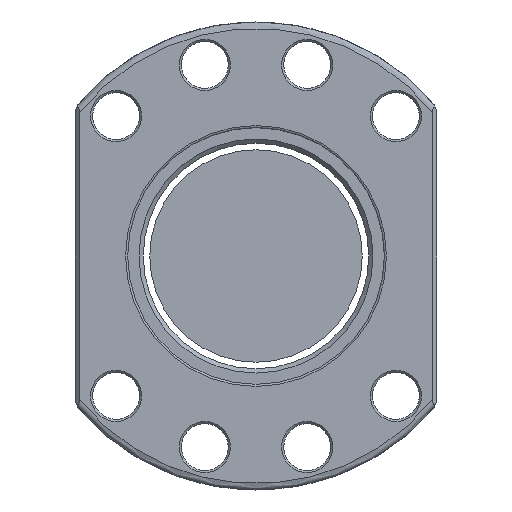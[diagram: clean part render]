
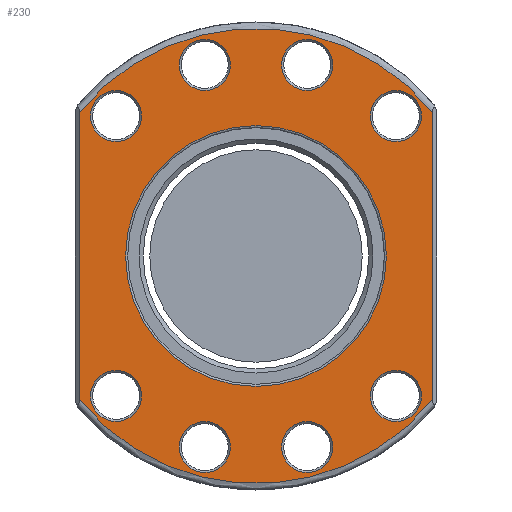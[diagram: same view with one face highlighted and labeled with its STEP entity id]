
A CAD part, front view. The second image highlights one B-rep face of the part: STEP entity #230.
In plain terms, the highlighted planar face has unit normal (0, -1, 0).
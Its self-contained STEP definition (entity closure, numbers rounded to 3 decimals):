
#51=LINE('',#1727,#75);
#52=LINE('',#1731,#76);
#75=VECTOR('',#1427,1.);
#76=VECTOR('',#1430,1.);
#166=PLANE('',#1165);
#230=ADVANCED_FACE('',(#356,#357,#358,#359,#360,#361,#362,#363,#364,#365),
#166,.F.);
#356=FACE_BOUND('',#492,.T.);
#357=FACE_BOUND('',#493,.T.);
#358=FACE_BOUND('',#494,.T.);
#359=FACE_BOUND('',#495,.T.);
#360=FACE_BOUND('',#496,.T.);
#361=FACE_BOUND('',#497,.T.);
#362=FACE_BOUND('',#498,.T.);
#363=FACE_BOUND('',#499,.T.);
#364=FACE_BOUND('',#500,.T.);
#365=FACE_BOUND('',#501,.T.);
#492=EDGE_LOOP('',(#656));
#493=EDGE_LOOP('',(#657));
#494=EDGE_LOOP('',(#658));
#495=EDGE_LOOP('',(#659));
#496=EDGE_LOOP('',(#660));
#497=EDGE_LOOP('',(#661));
#498=EDGE_LOOP('',(#662));
#499=EDGE_LOOP('',(#663));
#500=EDGE_LOOP('',(#664));
#501=EDGE_LOOP('',(#665,#666,#667,#668));
#656=ORIENTED_EDGE('',*,*,#950,.T.);
#657=ORIENTED_EDGE('',*,*,#951,.T.);
#658=ORIENTED_EDGE('',*,*,#952,.T.);
#659=ORIENTED_EDGE('',*,*,#953,.T.);
#660=ORIENTED_EDGE('',*,*,#954,.T.);
#661=ORIENTED_EDGE('',*,*,#955,.T.);
#662=ORIENTED_EDGE('',*,*,#956,.T.);
#663=ORIENTED_EDGE('',*,*,#957,.T.);
#664=ORIENTED_EDGE('',*,*,#958,.T.);
#665=ORIENTED_EDGE('',*,*,#959,.T.);
#666=ORIENTED_EDGE('',*,*,#960,.T.);
#667=ORIENTED_EDGE('',*,*,#961,.T.);
#668=ORIENTED_EDGE('',*,*,#962,.T.);
#854=VERTEX_POINT('',#1707);
#855=VERTEX_POINT('',#1709);
#856=VERTEX_POINT('',#1711);
#857=VERTEX_POINT('',#1713);
#858=VERTEX_POINT('',#1715);
#859=VERTEX_POINT('',#1717);
#860=VERTEX_POINT('',#1719);
#861=VERTEX_POINT('',#1721);
#862=VERTEX_POINT('',#1723);
#863=VERTEX_POINT('',#1725);
#864=VERTEX_POINT('',#1726);
#865=VERTEX_POINT('',#1728);
#866=VERTEX_POINT('',#1730);
#950=EDGE_CURVE('',#854,#854,#1044,.T.);
#951=EDGE_CURVE('',#855,#855,#1045,.T.);
#952=EDGE_CURVE('',#856,#856,#1046,.T.);
#953=EDGE_CURVE('',#857,#857,#1047,.T.);
#954=EDGE_CURVE('',#858,#858,#1048,.T.);
#955=EDGE_CURVE('',#859,#859,#1049,.T.);
#956=EDGE_CURVE('',#860,#860,#1050,.T.);
#957=EDGE_CURVE('',#861,#861,#1051,.T.);
#958=EDGE_CURVE('',#862,#862,#1052,.T.);
#959=EDGE_CURVE('',#863,#864,#1053,.T.);
#960=EDGE_CURVE('',#864,#865,#51,.T.);
#961=EDGE_CURVE('',#865,#866,#1054,.T.);
#962=EDGE_CURVE('',#866,#863,#52,.T.);
#1044=CIRCLE('',#1154,6.);
#1045=CIRCLE('',#1155,6.);
#1046=CIRCLE('',#1156,6.);
#1047=CIRCLE('',#1157,6.);
#1048=CIRCLE('',#1158,6.);
#1049=CIRCLE('',#1159,6.);
#1050=CIRCLE('',#1160,6.);
#1051=CIRCLE('',#1161,6.);
#1052=CIRCLE('',#1162,30.65);
#1053=CIRCLE('',#1163,53.5);
#1054=CIRCLE('',#1164,53.5);
#1154=AXIS2_PLACEMENT_3D('',#1706,#1407,#1408);
#1155=AXIS2_PLACEMENT_3D('',#1708,#1409,#1410);
#1156=AXIS2_PLACEMENT_3D('',#1710,#1411,#1412);
#1157=AXIS2_PLACEMENT_3D('',#1712,#1413,#1414);
#1158=AXIS2_PLACEMENT_3D('',#1714,#1415,#1416);
#1159=AXIS2_PLACEMENT_3D('',#1716,#1417,#1418);
#1160=AXIS2_PLACEMENT_3D('',#1718,#1419,#1420);
#1161=AXIS2_PLACEMENT_3D('',#1720,#1421,#1422);
#1162=AXIS2_PLACEMENT_3D('',#1722,#1423,#1424);
#1163=AXIS2_PLACEMENT_3D('',#1724,#1425,#1426);
#1164=AXIS2_PLACEMENT_3D('',#1729,#1428,#1429);
#1165=AXIS2_PLACEMENT_3D('',#1732,#1431,#1432);
#1407=DIRECTION('',(0.,1.,0.));
#1408=DIRECTION('',(0.,0.,1.));
#1409=DIRECTION('',(0.,1.,0.));
#1410=DIRECTION('',(0.,0.,1.));
#1411=DIRECTION('',(0.,1.,0.));
#1412=DIRECTION('',(0.,0.,1.));
#1413=DIRECTION('',(0.,1.,0.));
#1414=DIRECTION('',(0.,0.,1.));
#1415=DIRECTION('',(0.,1.,0.));
#1416=DIRECTION('',(0.,0.,1.));
#1417=DIRECTION('',(0.,1.,0.));
#1418=DIRECTION('',(0.,0.,1.));
#1419=DIRECTION('',(0.,1.,0.));
#1420=DIRECTION('',(0.,0.,1.));
#1421=DIRECTION('',(0.,1.,0.));
#1422=DIRECTION('',(0.,0.,1.));
#1423=DIRECTION('',(0.,1.,0.));
#1424=DIRECTION('',(0.,0.,1.));
#1425=DIRECTION('',(0.,-1.,0.));
#1426=DIRECTION('',(0.,0.,1.));
#1427=DIRECTION('',(0.,0.,1.));
#1428=DIRECTION('',(0.,-1.,0.));
#1429=DIRECTION('',(0.,0.,1.));
#1430=DIRECTION('',(0.,0.,-1.));
#1431=DIRECTION('',(0.,1.,0.));
#1432=DIRECTION('',(0.,0.,1.));
#1706=CARTESIAN_POINT('',(12.035,0.,44.916));
#1707=CARTESIAN_POINT('',(12.035,0.,50.916));
#1708=CARTESIAN_POINT('',(-32.88,0.,-32.88));
#1709=CARTESIAN_POINT('',(-32.88,0.,-26.88));
#1710=CARTESIAN_POINT('',(-12.035,0.,-44.916));
#1711=CARTESIAN_POINT('',(-12.035,0.,-38.916));
#1712=CARTESIAN_POINT('',(12.035,0.,-44.916));
#1713=CARTESIAN_POINT('',(12.035,0.,-38.916));
#1714=CARTESIAN_POINT('',(32.88,0.,-32.88));
#1715=CARTESIAN_POINT('',(32.88,0.,-26.88));
#1716=CARTESIAN_POINT('',(-32.88,0.,32.88));
#1717=CARTESIAN_POINT('',(-32.88,0.,38.88));
#1718=CARTESIAN_POINT('',(-12.035,0.,44.916));
#1719=CARTESIAN_POINT('',(-12.035,0.,50.916));
#1720=CARTESIAN_POINT('',(32.88,0.,32.88));
#1721=CARTESIAN_POINT('',(32.88,0.,38.88));
#1722=CARTESIAN_POINT('',(0.,0.,0.));
#1723=CARTESIAN_POINT('',(0.,0.,30.65));
#1724=CARTESIAN_POINT('',(0.,0.,0.));
#1725=CARTESIAN_POINT('',(-41.5,0.,-33.764));
#1726=CARTESIAN_POINT('',(41.5,0.,-33.764));
#1727=CARTESIAN_POINT('',(41.5,0.,0.));
#1728=CARTESIAN_POINT('',(41.5,0.,33.764));
#1729=CARTESIAN_POINT('',(0.,0.,0.));
#1730=CARTESIAN_POINT('',(-41.5,0.,33.764));
#1731=CARTESIAN_POINT('',(-41.5,0.,0.));
#1732=CARTESIAN_POINT('',(0.,0.,0.));
